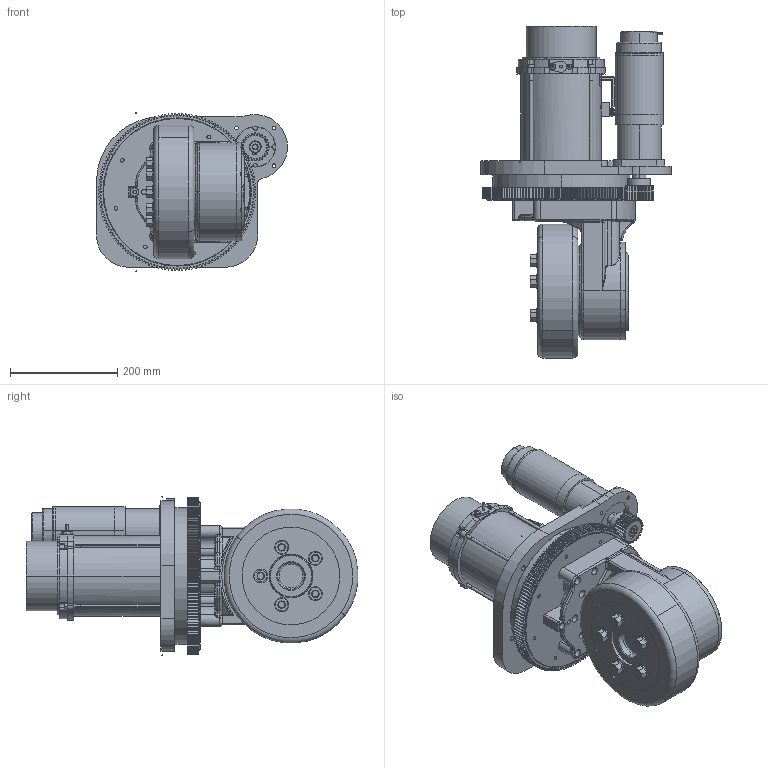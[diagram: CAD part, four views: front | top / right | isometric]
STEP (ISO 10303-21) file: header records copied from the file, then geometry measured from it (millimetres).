
FILE_DESCRIPTION (( 'STEP AP214' ), '1' );
FILE_NAME ('立式250总成（带助力转向电机）.STEP', '2022-04-20T02:23:02', ( 'Windows 用户' ), ( '' ), 'SwSTEP 2.0', 'SolidWorks 2019', '' );
FILE_SCHEMA (( 'AUTOMOTIVE_DESIGN' ));
Length unit declared in the file: millimetre
Products named in the file (1): 立式250总成（带助力转向电机）
Bounding box: 355.48 x 617.94 x 297 mm (x, y, z)
Surface area: 985200.6 mm2 (no closed solid volume)
Topology: 0 solids, 88 shells, 1352 faces, 4831 edges, 3374 vertices
Faces by surface type: cylinder 571, bspline 406, plane 288, torus 45, cone 42
Entity records: 89402 total; most frequent: CARTESIAN_POINT 36922, ORIENTED_EDGE 7694, DIRECTION 6833, EDGE_CURVE 4817, VERTEX_POINT 3374, AXIS2_PLACEMENT_3D 2594, CIRCLE 1647, VECTOR 1645
